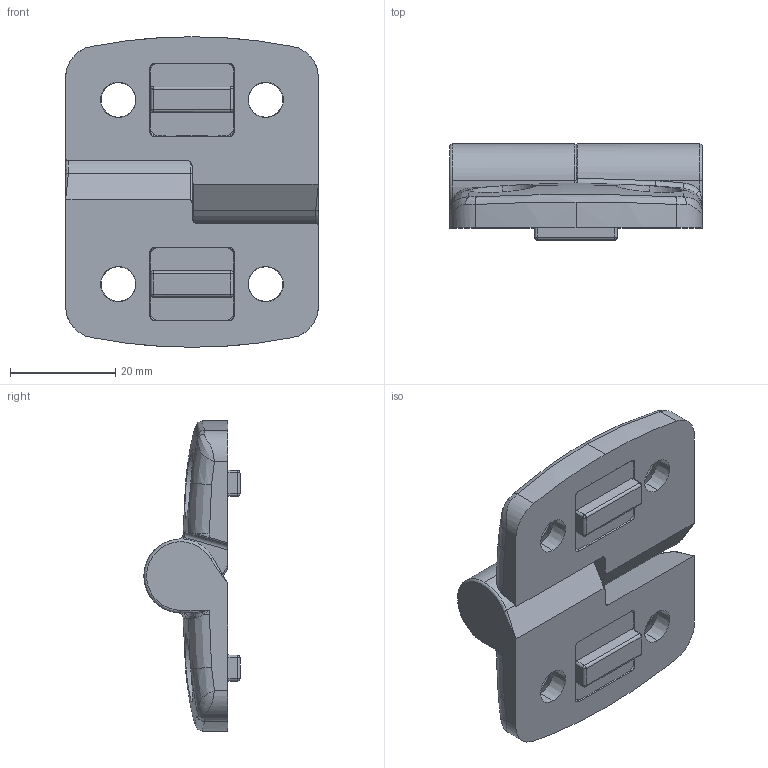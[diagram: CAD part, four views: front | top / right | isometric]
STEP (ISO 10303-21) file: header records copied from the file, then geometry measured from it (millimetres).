
FILE_DESCRIPTION(('STEP AP214'),'1');
FILE_NAME('C:/TPO v2/SharedFS/Outgoing/fath_095a3030l.stp','2016-08-26T10:15:10',('TraceParts'),('TraceParts S.A.'),'Spatial InterOp 3D',' ',' ');
FILE_SCHEMA(('automotive_design'));
Length unit declared in the file: millimetre
Products named in the file (5): fath_095a3030l_1; fath_095a3030l_2; fath_095a3030l_3; fath_095a3030l_4; fath_095a3030l_5
Bounding box: 48 x 18.25 x 59 mm (x, y, z)
Volume: 21050.6 mm3; surface area: 12014.2 mm2
Topology: 5 solids, 5 shells, 424 faces, 1016 edges, 578 vertices
Faces by surface type: cylinder 132, plane 92, torus 66, cone 66, bspline 52, sphere 16
Entity records: 19161 total; most frequent: CARTESIAN_POINT 6453, ORIENTED_EDGE 1968, DIRECTION 1890, EDGE_CURVE 984, AXIS2_PLACEMENT_3D 749, VERTEX_POINT 578, EDGE_LOOP 440, STYLED_ITEM 429
